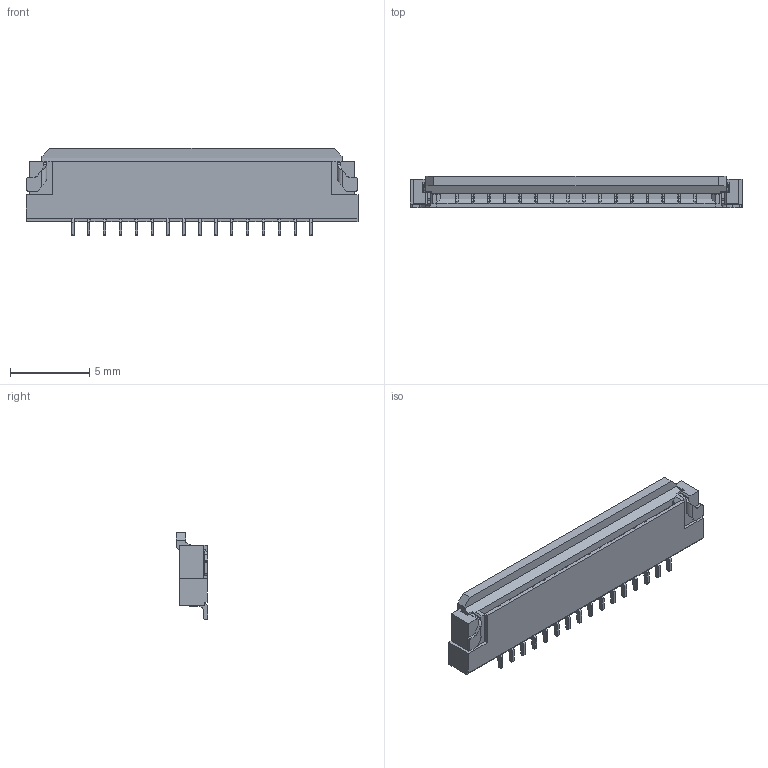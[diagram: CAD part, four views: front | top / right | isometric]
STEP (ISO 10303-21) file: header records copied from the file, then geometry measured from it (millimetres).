
FILE_DESCRIPTION((''),'2;1');
FILE_NAME('E-51502-060XX-001_ASM','2011-10-25T',('12114032'),(''),'PRO/ENGINEER BY PARAMETRIC TECHNOLOGY CORPORATION, 2010370','PRO/ENGINEER BY PARAMETRIC TECHNOLOGY CORPORATION, 2010370','');
FILE_SCHEMA(('CONFIG_CONTROL_DESIGN'));
Length unit declared in the file: millimetre
Products named in the file (1): E-51502-060XX-001_ASM
Bounding box: 20.9 x 2 x 5.51 mm (x, y, z)
Volume: 102.3 mm3; surface area: 621.7 mm2
Topology: 2 solids, 2 shells, 1290 faces, 4710 edges, 3286 vertices
Faces by surface type: plane 865, cylinder 415, bspline 6, torus 4
Entity records: 51740 total; most frequent: CARTESIAN_POINT 9698, ORIENTED_EDGE 9420, DIRECTION 8722, EDGE_CURVE 4710, VERTEX_POINT 3286, VECTOR 3206, LINE 3206, AXIS2_PLACEMENT_3D 2758
